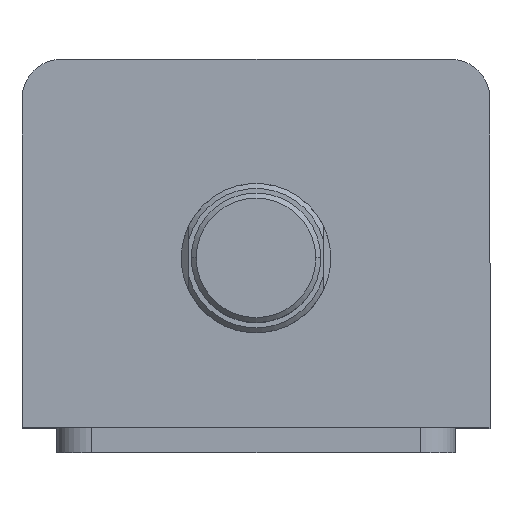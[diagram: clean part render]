
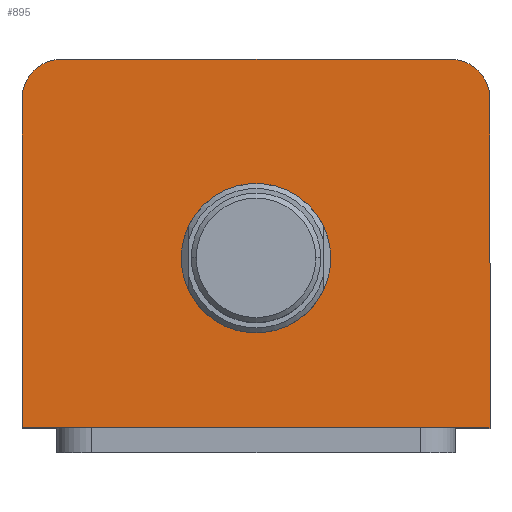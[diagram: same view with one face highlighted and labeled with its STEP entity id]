
A CAD part, top view. The second image highlights one B-rep face of the part: STEP entity #895.
In plain terms, the highlighted planar face has unit normal (0, 0, 1).
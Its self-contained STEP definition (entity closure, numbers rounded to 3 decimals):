
#45 = CIRCLE ( 'NONE', #673, 15. ) ;
#117 = LINE ( 'NONE', #1566, #120 ) ;
#120 = VECTOR ( 'NONE', #1568, 1000. ) ;
#140 = LINE ( 'NONE', #1591, #143 ) ;
#143 = VECTOR ( 'NONE', #1592, 1000. ) ;
#165 = CIRCLE ( 'NONE', #702, 8. ) ;
#179 = CIRCLE ( 'NONE', #710, 8. ) ;
#187 = LINE ( 'NONE', #1676, #190 ) ;
#190 = VECTOR ( 'NONE', #1677, 1000. ) ;
#203 = LINE ( 'NONE', #1692, #206 ) ;
#206 = VECTOR ( 'NONE', #1693, 1000. ) ;
#220 = CIRCLE ( 'NONE', #715, 15. ) ;
#673 = AXIS2_PLACEMENT_3D ( 'NONE', #1198, #1197, #1196 ) ;
#702 = AXIS2_PLACEMENT_3D ( 'NONE', #1630, #1631, #1632 ) ;
#710 = AXIS2_PLACEMENT_3D ( 'NONE', #1658, #1659, #1660 ) ;
#715 = AXIS2_PLACEMENT_3D ( 'NONE', #1709, #1710, #1711 ) ;
#895 = ADVANCED_FACE ( 'NONE', ( #1218, #1210 ), #2754, .T. ) ;
#971 = CARTESIAN_POINT ( 'NONE',  ( -39., 37., 125. ) ) ;
#991 = ORIENTED_EDGE ( 'NONE', *, *, #2956, .T. ) ;
#1000 = ORIENTED_EDGE ( 'NONE', *, *, #1155, .F. ) ;
#1061 = ORIENTED_EDGE ( 'NONE', *, *, #2940, .T. ) ;
#1063 = ORIENTED_EDGE ( 'NONE', *, *, #2923, .T. ) ;
#1064 = ORIENTED_EDGE ( 'NONE', *, *, #2950, .T. ) ;
#1065 = ORIENTED_EDGE ( 'NONE', *, *, #2964, .T. ) ;
#1066 = ORIENTED_EDGE ( 'NONE', *, *, #2911, .T. ) ;
#1078 = ORIENTED_EDGE ( 'NONE', *, *, #2973, .F. ) ;
#1155 = EDGE_CURVE ( 'NONE', #2181, #2465, #45, .T. ) ;
#1196 = DIRECTION ( 'NONE',  ( 1., 0., 0. ) ) ;
#1197 = DIRECTION ( 'NONE',  ( 0., 0., 1. ) ) ;
#1198 = CARTESIAN_POINT ( 'NONE',  ( 0., -3., 125. ) ) ;
#1210 = FACE_OUTER_BOUND ( 'NONE', #1414, .T. ) ;
#1218 = FACE_BOUND ( 'NONE', #2145, .T. ) ;
#1303 = VERTEX_POINT ( 'NONE', #2269 ) ;
#1310 = VERTEX_POINT ( 'NONE', #2261 ) ;
#1414 = EDGE_LOOP ( 'NONE', ( #1066, #1064, #1065, #991, #1063, #1061 ) ) ;
#1489 = CARTESIAN_POINT ( 'NONE',  ( 39., 37., 125. ) ) ;
#1510 = CARTESIAN_POINT ( 'NONE',  ( 47., 29., 125. ) ) ;
#1527 = CARTESIAN_POINT ( 'NONE',  ( 15., -3., 125. ) ) ;
#1566 = CARTESIAN_POINT ( 'NONE',  ( -47., 37., 125. ) ) ;
#1568 = DIRECTION ( 'NONE',  ( -1., 0., 0. ) ) ;
#1591 = CARTESIAN_POINT ( 'NONE',  ( 47., 37., 125. ) ) ;
#1592 = DIRECTION ( 'NONE',  ( 0., 1., 0. ) ) ;
#1630 = CARTESIAN_POINT ( 'NONE',  ( 39., 29., 125. ) ) ;
#1631 = DIRECTION ( 'NONE',  ( 0., 0., 1. ) ) ;
#1632 = DIRECTION ( 'NONE',  ( 1., 0., 0. ) ) ;
#1658 = CARTESIAN_POINT ( 'NONE',  ( -39., 29., 125. ) ) ;
#1659 = DIRECTION ( 'NONE',  ( 0., 0., 1. ) ) ;
#1660 = DIRECTION ( 'NONE',  ( 1., 0., 0. ) ) ;
#1676 = CARTESIAN_POINT ( 'NONE',  ( -47., -37., 125. ) ) ;
#1677 = DIRECTION ( 'NONE',  ( 1., 0., 0. ) ) ;
#1692 = CARTESIAN_POINT ( 'NONE',  ( -47., 37., 125. ) ) ;
#1693 = DIRECTION ( 'NONE',  ( 0., -1., 0. ) ) ;
#1709 = CARTESIAN_POINT ( 'NONE',  ( 0., -3., 125. ) ) ;
#1710 = DIRECTION ( 'NONE',  ( 0., 0., 1. ) ) ;
#1711 = DIRECTION ( 'NONE',  ( 1., 0., 0. ) ) ;
#2145 = EDGE_LOOP ( 'NONE', ( #1078, #1000 ) ) ;
#2175 = VERTEX_POINT ( 'NONE', #2204 ) ;
#2181 = VERTEX_POINT ( 'NONE', #2195 ) ;
#2189 = VERTEX_POINT ( 'NONE', #971 ) ;
#2195 = CARTESIAN_POINT ( 'NONE',  ( -15., -3., 125. ) ) ;
#2204 = CARTESIAN_POINT ( 'NONE',  ( 47., -37., 125. ) ) ;
#2261 = CARTESIAN_POINT ( 'NONE',  ( -47., -37., 125. ) ) ;
#2269 = CARTESIAN_POINT ( 'NONE',  ( -47., 29., 125. ) ) ;
#2361 = VERTEX_POINT ( 'NONE', #1489 ) ;
#2422 = VERTEX_POINT ( 'NONE', #1510 ) ;
#2465 = VERTEX_POINT ( 'NONE', #1527 ) ;
#2726 = DIRECTION ( 'NONE',  ( 0., 0., 1. ) ) ;
#2745 = DIRECTION ( 'NONE',  ( 1., 0., 0. ) ) ;
#2749 = CARTESIAN_POINT ( 'NONE',  ( 0., 0., 125. ) ) ;
#2754 = PLANE ( 'NONE',  #3078 ) ;
#2911 = EDGE_CURVE ( 'NONE', #2361, #2189, #117, .T. ) ;
#2923 = EDGE_CURVE ( 'NONE', #2175, #2422, #140, .T. ) ;
#2940 = EDGE_CURVE ( 'NONE', #2422, #2361, #165, .T. ) ;
#2950 = EDGE_CURVE ( 'NONE', #2189, #1303, #179, .T. ) ;
#2956 = EDGE_CURVE ( 'NONE', #1310, #2175, #187, .T. ) ;
#2964 = EDGE_CURVE ( 'NONE', #1303, #1310, #203, .T. ) ;
#2973 = EDGE_CURVE ( 'NONE', #2465, #2181, #220, .T. ) ;
#3078 = AXIS2_PLACEMENT_3D ( 'NONE', #2749, #2726, #2745 ) ;
